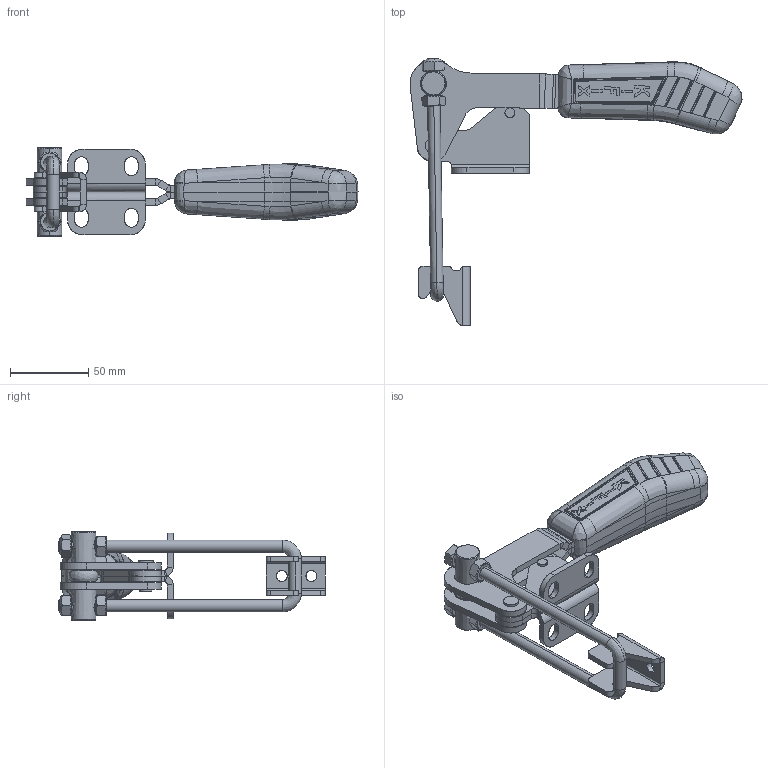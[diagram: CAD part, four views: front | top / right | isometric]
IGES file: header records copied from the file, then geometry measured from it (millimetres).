
Start section: SolidWorks IGES file using analytic representation for surfaces
Global section: file name: C:\Projetos\Grampos\KF-263\KF-263 D\KF-263 D.IGS; native system: SolidWorks 2013; preprocessor: SolidWorks 2013; author: Ricardo; date: 140822.091344; units: millimetre
Bounding box: 212.63 x 170.96 x 56.5 mm (x, y, z)
Surface area: 79443.8 mm2 (no closed solid volume)
Topology: 0 solids, 0 shells, 706 faces, 7988 edges, 7965 vertices
Faces by surface type: bspline 406, revolution 300
